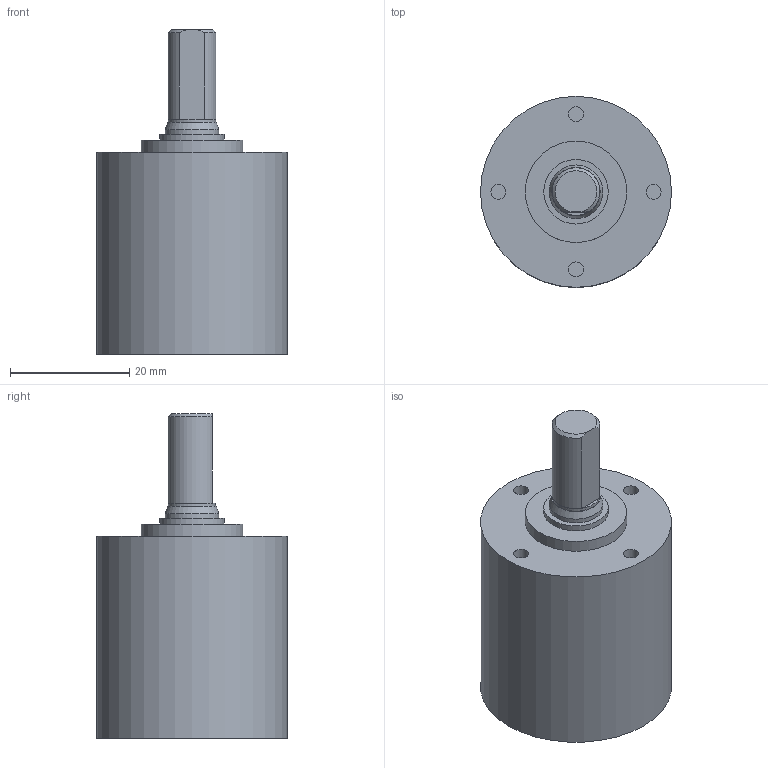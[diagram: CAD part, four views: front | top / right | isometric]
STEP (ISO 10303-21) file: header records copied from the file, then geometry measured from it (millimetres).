
FILE_DESCRIPTION(/* description */ (''),/* implementation_level */ '2;1');
FILE_NAME(/* name */ '32-3_1stage.stp',/* time_stamp */ '2021-02-23T06:55:42+01:00',/* author */ ('DR. FRITZ FAULHABER GmbH & Co. KG'),/* organization */ ('DR. FRITZ FAULHABER GmbH & Co. KG'),/* preprocessor_version */ 'ST-DEVELOPER v16.7',/* originating_system */ 'SIEMENS PLM Software NX 1919',/* authorisation */ '');
FILE_SCHEMA (('AUTOMOTIVE_DESIGN { 1 0 10303 214 3 1 1 1 }'));
Length unit declared in the file: millimetre
Products named in the file (1): 012019_A_5-TP-00213
Bounding box: 32 x 32 x 54.4 mm (x, y, z)
Volume: 20675.1 mm3; surface area: 6891.6 mm2
Topology: 1 solids, 1 shells, 37 faces, 71 edges, 51 vertices
Faces by surface type: plane 19, cylinder 16, cone 2
Full cylindrical faces by diameter (mm): 2.5 x4, 7.9 x1, 9 x1, 10.8 x1, 11.8 x1, 13.5 x1, 17 x1, 26.9 x1, 27.57 x1, 30 x1, 30.459 x1, 32 x1
Entity records: 904 total; most frequent: DIRECTION 172, CARTESIAN_POINT 136, ORIENTED_EDGE 86, AXIS2_PLACEMENT_3D 83, EDGE_LOOP 67, FACE_BOUND 56, CIRCLE 45, EDGE_CURVE 43
